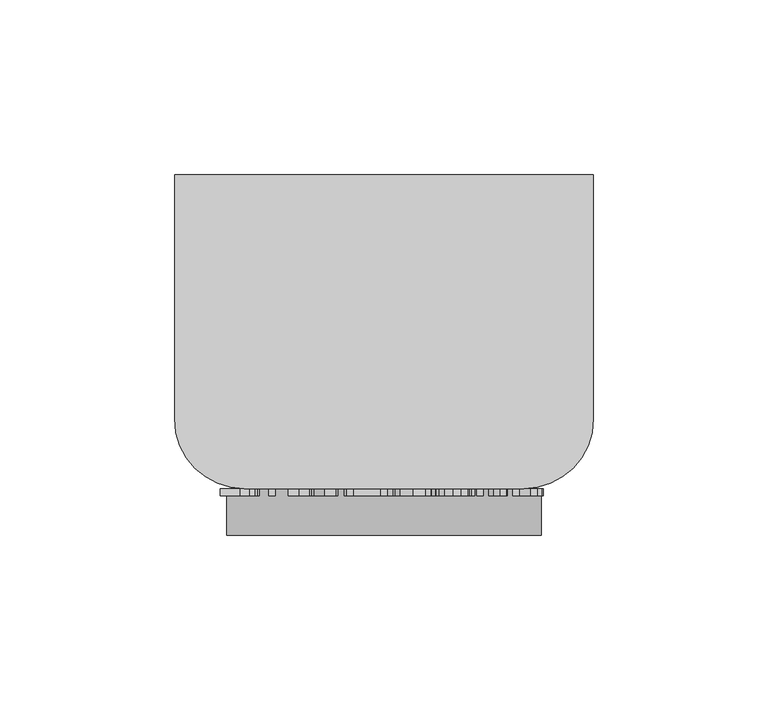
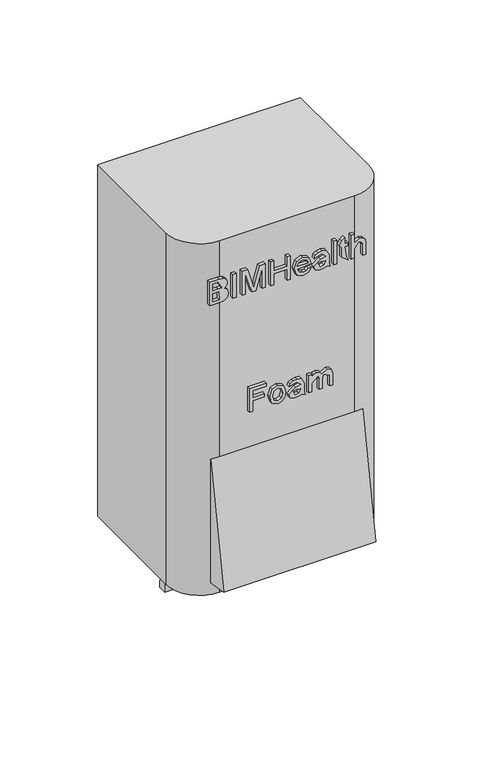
"""IFC4 building model written with IfcOpenShell, lengths in millimetres: furniture geometry, BIMHealth-Foam_Dispenser-LOD2A-v1 : BIMHealth-Foam_Dispenser-LOD2A-v1."""

from ifc_helpers import new_model, si_unit, point, frame, frame_2d, origin, place, context, project, spatial, polyline, circle_curve, trimmed, segment, composite_curve, outline, extrude, source, transform, mapped, element, save
from ifc_brep_helpers import plane_surface, cylinder_surface, advanced_brep


def furniture_b5986096(model_context):
    return source(origin(), model_context, "Body", "SolidModel", [
        extrude(outline(polyline([(1382.8683672, 13.1382718), (1382.8683672, 18.7308199), (1383.1225739, 21.0980074), (1383.8725739, 22.7043776), (1385.2860355, 23.7806997), (1387.2710114, 24.2151949), (1389.5678864, 23.5787766), (1390.9452903, 21.7596661), (1392.2523816, 23.2578632), (1393.9777422, 23.7536565), (1395.8671653, 23.1641132), (1397.2031028, 21.5343055), (1397.637598, 18.7740891), (1397.637598, 13.1382718), (1382.8683672, 13.1382718)]), holes=[polyline([(1384.714521, 14.9844257), (1389.7914441, 14.9844257), (1389.7914441, 18.5901949), (1384.714521, 18.7704834), (1384.714521, 14.9844257)]), polyline([(1391.637598, 14.9844257), (1395.7914441, 14.9844257), (1395.7914441, 18.0998103), (1391.7962518, 20.3245699), (1391.637598, 18.3558199), (1391.637598, 14.9844257)])]), frame((0.0, -92.0, 0.0), z_axis=(0.0, 1.0, 0.0), x_axis=(0.0, 0.0, 1.0)), (0.0, 0.0, 1.0), 2.0),
        extrude(outline(polyline([(28.8305795, -92.0), (26.9844257, -92.0), (26.9844257, -90.0), (28.8305795, -90.0), (28.8305795, -92.0)])), frame((0.0, 0.0, 1382.8683672), z_axis=(0.0, 0.0, 1.0), x_axis=(1.0, 0.0, 0.0)), (0.0, 0.0, 1.0), 14.7692308),
        extrude(outline(polyline([(1382.8683672, 32.5228872), (1382.8683672, 34.3690411), (1395.7914441, 34.3690411), (1382.8683672, 38.0829834), (1382.8683672, 40.5817815), (1395.7914441, 44.292118), (1382.8683672, 44.292118), (1382.8683672, 46.1382718), (1397.637598, 46.1382718), (1397.637598, 42.9615891), (1387.4080307, 39.9904353), (1385.0534634, 39.3305795), (1387.2277422, 38.7175988), (1397.637598, 35.6887526), (1397.637598, 32.5228872), (1382.8683672, 32.5228872)])), frame((0.0, -92.0, 0.0), z_axis=(0.0, 1.0, 0.0), x_axis=(0.0, 0.0, 1.0)), (0.0, 0.0, 1.0), 2.0),
        extrude(outline(polyline([(1382.8683672, 49.3690411), (1382.8683672, 51.2151949), (1389.7914441, 51.2151949), (1389.7914441, 59.0613488), (1382.8683672, 59.0613488), (1382.8683672, 60.9075026), (1397.637598, 60.9075026), (1397.637598, 59.0613488), (1391.637598, 59.0613488), (1391.637598, 51.2151949), (1397.637598, 51.2151949), (1397.637598, 49.3690411), (1382.8683672, 49.3690411)])), frame((0.0, -92.0, 0.0), z_axis=(0.0, 1.0, 0.0), x_axis=(0.0, 0.0, 1.0)), (0.0, 0.0, 1.0), 2.0),
        extrude(outline(polyline([(1386.0991364, 71.5012526), (1384.8695691, 70.3113488), (1384.4837518, 68.5012526), (1385.3166845, 66.1232478), (1387.714521, 65.0613488), (1388.2121172, 73.3690411), (1392.4416845, 71.9681997), (1393.9452903, 68.3606276), (1392.4380787, 64.6466853), (1388.2012999, 63.2151949), (1384.0997374, 64.6322622), (1382.637598, 68.4651949), (1383.4849537, 71.6184401), (1385.8683672, 73.3113488), (1386.0991364, 71.5012526)]), holes=[polyline([(1389.5606749, 65.0613488), (1391.4086316, 66.0799786), (1392.0991364, 68.3534161), (1391.2337518, 70.7837045), (1389.5606749, 71.5228872), (1389.5606749, 65.0613488)])]), frame((0.0, -92.0, 0.0), z_axis=(0.0, 1.0, 0.0), x_axis=(0.0, 0.0, 1.0)), (0.0, 0.0, 1.0), 2.0),
        extrude(outline(polyline([(1383.5606749, 82.3690411), (1382.8683672, 84.4459641), (1384.4206509, 84.0781757), (1387.6279826, 83.9844257), (1389.9248576, 83.9844257), (1393.6171653, 82.0643536), (1393.9452903, 79.8269738), (1393.573896, 77.3912766), (1392.5174057, 75.7831036), (1390.714521, 74.9844257), (1391.7439682, 77.7212045), (1392.0991364, 79.588993), (1389.7914441, 82.1274545), (1389.1568287, 78.9255315), (1385.7529826, 74.7536565), (1383.5137999, 75.6893536), (1382.637598, 78.370243), (1383.0017807, 80.3480074), (1383.5606749, 82.3690411)]), holes=[polyline([(1386.9699297, 81.9868295), (1384.9254585, 80.6310603), (1384.4837518, 78.7632718), (1387.0799057, 77.5715651), (1387.3791845, 79.1599065), (1386.9699297, 81.9868295)])]), frame((0.0, -92.0, 0.0), z_axis=(0.0, 1.0, 0.0), x_axis=(0.0, 0.0, 1.0)), (0.0, 0.0, 1.0), 2.0),
        extrude(outline(polyline([(88.3690411, -92.0), (86.5228872, -92.0), (86.5228872, -90.0), (88.3690411, -90.0), (88.3690411, -92.0)])), frame((0.0, 0.0, 1382.8683672), z_axis=(0.0, 0.0, 1.0), x_axis=(1.0, 0.0, 0.0)), (0.0, 0.0, 1.0), 14.7692308),
        extrude(outline(polyline([(1385.152622, 94.1382718), (1391.8683672, 93.2151949), (1391.8683672, 95.0613488), (1393.714521, 95.0613488), (1393.714521, 93.2151949), (1397.4356749, 93.2151949), (1396.3503384, 91.3690411), (1393.714521, 89.9844257), (1391.8683672, 91.3690411), (1385.8431268, 91.3690411), (1382.8142807, 95.292118), (1385.152622, 94.1382718)])), frame((0.0, -92.0, 0.0), z_axis=(0.0, 1.0, 0.0), x_axis=(0.0, 0.0, 1.0)), (0.0, 0.0, 1.0), 2.0),
        extrude(outline(polyline([(1382.8683672, 96.9075026), (1382.8683672, 98.7536565), (1388.6303864, 98.7536565), (1392.0991364, 101.5769738), (1391.4897614, 103.2428391), (1389.542646, 103.8305795), (1382.8683672, 103.8305795), (1382.8683672, 105.6767334), (1389.7337518, 105.6767334), (1392.1604345, 105.2981276), (1393.4711316, 104.0397141), (1393.9452903, 101.9663968), (1392.2073095, 98.7536565), (1397.637598, 98.7536565), (1397.637598, 96.9075026), (1382.8683672, 96.9075026)])), frame((0.0, -92.0, 0.0), z_axis=(0.0, 1.0, 0.0), x_axis=(0.0, 0.0, 1.0)), (0.0, 0.0, 1.0), 2.0),
        extrude(outline(polyline([(1307.8683672, 36.8882718), (1307.8683672, 38.7344257), (1314.5606749, 38.7344257), (1314.5606749, 45.6575026), (1316.4068287, 45.6575026), (1316.4068287, 38.7344257), (1320.7914441, 38.7344257), (1320.7914441, 46.8113488), (1322.637598, 46.8113488), (1322.637598, 36.8882718), (1307.8683672, 36.8882718)])), frame((0.0, -92.0, 0.0), z_axis=(0.0, 1.0, 0.0), x_axis=(0.0, 0.0, 1.0)), (0.0, 0.0, 1.0), 2.0),
        extrude(outline(polyline([(1313.2914441, 48.6575026), (1309.0943287, 49.9970459), (1307.637598, 53.5072622), (1308.2992566, 56.0078632), (1310.1580307, 57.7512526), (1313.4428864, 58.3498103), (1317.4831509, 56.995844), (1318.9452903, 53.5072622), (1317.7445691, 50.2548584), (1313.2914441, 48.6575026)]), holes=[polyline([(1313.2950499, 50.5036565), (1316.152622, 51.3582238), (1317.0991364, 53.5072622), (1316.1490162, 55.6436805), (1313.3527422, 56.5036565), (1310.4392807, 55.6490891), (1309.4837518, 53.5072622), (1310.433872, 51.3582238), (1313.2950499, 50.5036565)])]), frame((0.0, -92.0, 0.0), z_axis=(0.0, 1.0, 0.0), x_axis=(0.0, 0.0, 1.0)), (0.0, 0.0, 1.0), 2.0),
        extrude(outline(polyline([(1308.5606749, 67.5805795), (1307.8683672, 69.6575026), (1309.4206509, 69.2897141), (1312.6279826, 69.1959641), (1314.9248576, 69.1959641), (1318.6171653, 67.275892), (1318.9452903, 65.0385122), (1318.573896, 62.6028151), (1317.5174057, 60.994642), (1315.714521, 60.1959641), (1316.7439682, 62.932743), (1317.0991364, 64.8005315), (1314.7914441, 67.338993), (1314.1568287, 64.1370699), (1310.7529826, 59.9651949), (1308.5137999, 60.900892), (1307.637598, 63.5817815), (1308.0017807, 65.5595459), (1308.5606749, 67.5805795)]), holes=[polyline([(1311.9699297, 67.198368), (1309.9254585, 65.8425988), (1309.4837518, 63.9748103), (1312.0799057, 62.7831036), (1312.3791845, 64.3714449), (1311.9699297, 67.198368)])]), frame((0.0, -92.0, 0.0), z_axis=(0.0, 1.0, 0.0), x_axis=(0.0, 0.0, 1.0)), (0.0, 0.0, 1.0), 2.0),
        extrude(outline(polyline([(1307.8683672, 71.7344257), (1307.8683672, 73.5805795), (1313.3383191, 73.5805795), (1316.5041845, 77.5379113), (1314.715723, 77.9651949), (1307.8683672, 77.9651949), (1307.8683672, 79.8113488), (1313.9909634, 79.8113488), (1316.3599537, 80.5343055), (1314.5101941, 84.1959641), (1307.8683672, 84.1959641), (1307.8683672, 86.042118), (1315.3034634, 86.042118), (1318.0528624, 85.1965651), (1318.9452903, 82.7825026), (1316.7998576, 79.5228872), (1318.3809874, 78.5060603), (1318.9452903, 76.6563007), (1318.3918047, 74.8498103), (1316.9296653, 73.5805795), (1318.714521, 73.5805795), (1318.714521, 71.7344257), (1307.8683672, 71.7344257)])), frame((0.0, -92.0, 0.0), z_axis=(0.0, 1.0, 0.0), x_axis=(0.0, 0.0, 1.0)), (0.0, 0.0, 1.0), 2.0),
        extrude(outline(composite_curve([segment(trimmed(circle_curve(frame_2d((60.0, -61.6073569)), 10.0), [point((50.0, -61.6073569))], [point((70.0, -61.6073569))], False, "CARTESIAN"), True, "CONTINUOUS"), segment(trimmed(circle_curve(frame_2d((60.0, -61.6073569)), 10.0), [point((70.0, -61.6073569))], [point((50.0, -61.6073569))], False, "CARTESIAN"), True, "CONTINUOUS")], self_intersect=False)), frame((0.0, 0.0, 1190.0), z_axis=(0.0, 0.0, 1.0), x_axis=(1.0, 0.0, 0.0)), (0.0, 0.0, 1.0), 10.0),
        advanced_brep(
        [(105.0, -90.0, 1285.0), (105.0, -103.2245236, 1210.0), (105.0, -90.0, 1207.6681597), (15.0, -90.0, 1285.0), (15.0, -90.0, 1207.6681597), (15.0, -103.2245236, 1210.0), (100.0, -90.0, 1285.0), (20.0, -90.0, 1285.0), (20.0, -90.0, 1207.6681597), (100.0, -90.0, 1207.6681597), (120.0, 0.0, 1420.0), (0.0, 0.0, 1420.0), (0.0, -70.0, 1420.0), (20.0, -90.0, 1420.0), (100.0, -90.0, 1420.0), (120.0, -70.0, 1420.0), (120.0, 0.0, 1200.0), (120.0, -70.0, 1200.0), (100.0, -90.0, 1200.0), (20.0, -90.0, 1200.0), (0.0, -70.0, 1200.0), (0.0, 0.0, 1200.0)],
        [
            (0, 1),
            (1, 2),
            (2, 0),
            (3, 4),
            (4, 5),
            (5, 3),
            (0, 6),
            (6, 7),
            (7, 3),
            (5, 1),
            (4, 8),
            (8, 9),
            (9, 2),
            (9, 6),
            (7, 8),
            (10, 11),
            (11, 12),
            (12, 13, circle_curve(frame((20.0, -70.0, 1420.0), z_axis=(0.0, 0.0, 1.0), x_axis=(1.0, 0.0, 0.0)), 20.0)),
            (13, 14),
            (14, 15, circle_curve(frame((100.0, -70.0, 1420.0), z_axis=(0.0, 0.0, 1.0), x_axis=(-1.0, 0.0, 0.0)), 20.0)),
            (15, 10),
            (16, 17),
            (17, 18, circle_curve(frame((100.0, -70.0, 1200.0), z_axis=(0.0, 0.0, -1.0), x_axis=(-1.0, 0.0, 0.0)), 20.0)),
            (18, 19),
            (19, 20, circle_curve(frame((20.0, -70.0, 1200.0), z_axis=(0.0, 0.0, -1.0), x_axis=(1.0, 0.0, 0.0)), 20.0)),
            (20, 21),
            (21, 16),
            (10, 16),
            (21, 11),
            (20, 12),
            (19, 8),
            (7, 13),
            (6, 14),
            (18, 9),
            (17, 15),
        ],
        [
            plane_surface(frame((105.0, -90.0, 1285.0), z_axis=(1.0000000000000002, 0.0, 0.0), x_axis=(0.0, -0.1736481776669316, -0.9848077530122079))),
            plane_surface(frame((15.0, -90.0, 1285.0), z_axis=(-1.0000000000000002, 0.0, 0.0), x_axis=(0.0, 0.1736481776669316, 0.9848077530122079))),
            plane_surface(frame((105.0, -90.0, 1285.0), z_axis=(0.0, -0.9848077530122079, 0.1736481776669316), x_axis=(-1.0, 0.0, 0.0))),
            plane_surface(frame((105.0, -103.2245236, 1210.0), z_axis=(0.0, -0.1736481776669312, -0.9848077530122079), x_axis=(-1.0, 0.0, 0.0))),
            plane_surface(frame((105.0, -90.0, 1207.6681597), z_axis=(0.0, 1.0, 0.0), x_axis=(-1.0, 0.0, 0.0))),
            plane_surface(frame((0.0, 0.0, 1420.0), z_axis=(0.0, 0.0, 1.0), x_axis=(-1.0, 0.0, 0.0))),
            plane_surface(frame((0.0, 0.0, 1200.0), z_axis=(0.0, 0.0, -1.0), x_axis=(1.0, 0.0, 0.0))),
            plane_surface(frame((120.0, 0.0, 1420.0), z_axis=(0.0, 1.0, 0.0), x_axis=(0.0, 0.0, -1.0))),
            plane_surface(frame((0.0, 0.0, 1420.0), z_axis=(-1.0, 0.0, 0.0), x_axis=(0.0, 0.0, -1.0))),
            cylinder_surface(frame((20.0, -70.0, 1200.0), z_axis=(0.0, 0.0, 1.0), x_axis=(1.0, 0.0, 0.0)), 20.0),
            plane_surface(frame((20.0, -90.0, 1420.0), z_axis=(0.0, -1.0, 0.0), x_axis=(0.0, 0.0, -1.0))),
            cylinder_surface(frame((100.0, -70.0, 1200.0), z_axis=(0.0, 0.0, 1.0), x_axis=(-1.0, 0.0, 0.0)), 20.0),
            plane_surface(frame((120.0, -70.0, 1420.0), z_axis=(1.0, 0.0, 0.0), x_axis=(0.0, 0.0, -1.0))),
        ],
        [
            (0, [[1, 2, 3]]),
            (1, [[4, 5, 6]]),
            (2, [[-1, 7, 8, 9, -6, 10]]),
            (3, [[-2, -10, -5, 11, 12, 13]]),
            (4, [[-3, -13, 14, -7]]),
            (4, [[-4, -9, 15, -11]]),
            (5, [[16, 17, 18, 19, 20, 21]]),
            (6, [[22, 23, 24, 25, 26, 27]]),
            (7, [[-16, 28, -27, 29]]),
            (8, [[-17, -29, -26, 30]]),
            (9, [[-18, -30, -25, 31, -15, 32]]),
            (10, [[-19, -32, -8, 33]]),
            (10, [[-24, 34, -12, -31]]),
            (11, [[-20, -33, -14, -34, -23, 35]]),
            (12, [[-21, -35, -22, -28]]),
        ],
    ),
        extrude(outline(composite_curve([segment(polyline([(-29.0586666, 1166.1925961), (-34.1073569, 1166.1925961)]), True, "CONTINUOUS"), segment(trimmed(circle_curve(frame_2d((14.5207715, 1172.632854)), 49.052745), [point((-34.1073569, 1166.1925961))], [point((-26.1880864, 1200.0))], False, "CARTESIAN"), True, "CONTINUOUS"), segment(polyline([(-26.1880864, 1200.0), (-20.0, 1200.0)]), True, "CONTINUOUS"), segment(trimmed(circle_curve(frame_2d((14.5207715, 1172.632854)), 44.052745), [point((-20.0, 1200.0))], [point((-29.0586666, 1166.1925961))], True, "CARTESIAN"), True, "CONTINUOUS")], self_intersect=False)), frame((20.0, 0.0, 0.0), z_axis=(1.0, 0.0, 0.0), x_axis=(0.0, 1.0, 0.0)), (0.0, 0.0, 1.0), 80.0),
    ])


if __name__ == "__main__":
    model = new_model("IFC4")
    model_context = context("Model", 3, world=origin())
    ifc_project = project(units=[si_unit("LENGTHUNIT", "METRE", prefix="MILLI")], contexts=[model_context])
    site = spatial("IfcSite", under=ifc_project)
    building = spatial("IfcBuilding", under=site)
    placement = place(None, origin())
    furniture_shape = furniture_b5986096(model_context)
    element("IfcFurniture", 1, ObjectType="BIMHealth-Foam_Dispenser-LOD2A-v1 : BIMHealth-Foam_Dispenser-LOD2A-v1", at=placement, inside=building, context=model_context, shape_type="MappedRepresentation", body=[
        mapped(furniture_shape, transform((0.0, 0.0, 0.0), x_axis=(1.0, 0.0, 0.0), y_axis=(0.0, 1.0, 0.0), z_axis=(0.0, 0.0, 1.0))),
    ])
    save(model, "model.ifc")
